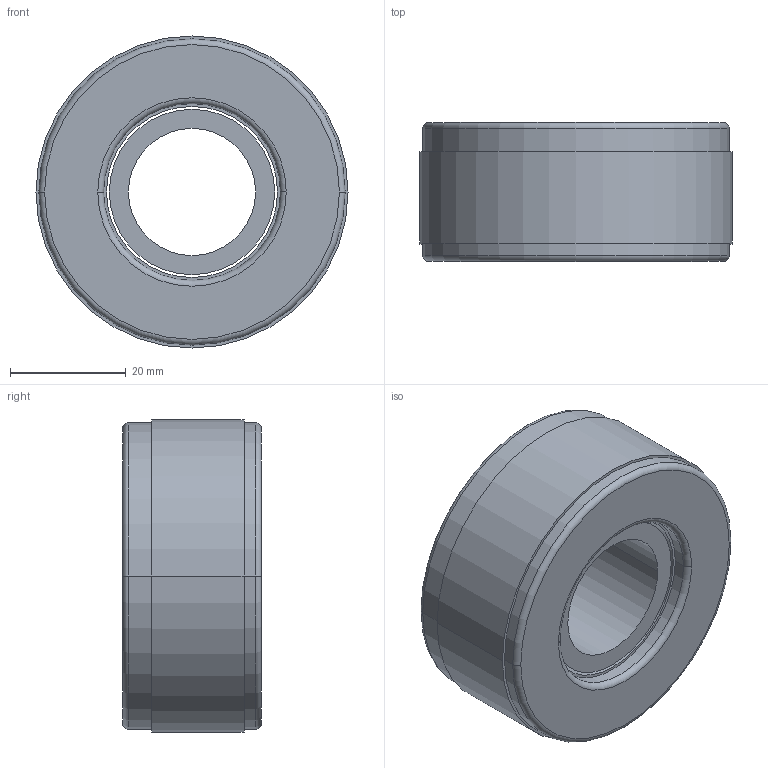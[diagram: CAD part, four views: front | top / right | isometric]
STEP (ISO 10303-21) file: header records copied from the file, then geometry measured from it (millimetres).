
FILE_DESCRIPTION((''),'2;1');
FILE_NAME('RI50','2020-08-18T',('Administrator'),(''),'PRO/ENGINEER BY PARAMETRIC TECHNOLOGY CORPORATION, 2013040','PRO/ENGINEER BY PARAMETRIC TECHNOLOGY CORPORATION, 2013040','');
FILE_SCHEMA(('CONFIG_CONTROL_DESIGN'));
Length unit declared in the file: millimetre
Products named in the file (1): RI50
Bounding box: 54 x 24 x 54 mm (x, y, z)
Volume: 42270.3 mm3; surface area: 12826.9 mm2
Topology: 2 solids, 2 shells, 32 faces, 64 edges, 40 vertices
Faces by surface type: cylinder 16, plane 8, torus 8
Entity records: 896 total; most frequent: DIRECTION 176, CARTESIAN_POINT 136, ORIENTED_EDGE 128, AXIS2_PLACEMENT_3D 80, EDGE_CURVE 64, CIRCLE 48, VERTEX_POINT 40, EDGE_LOOP 40
